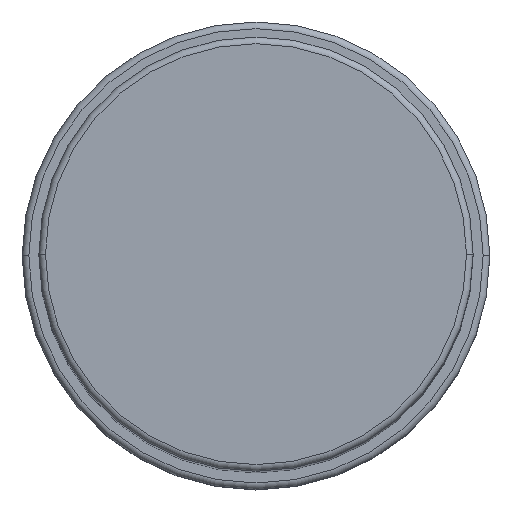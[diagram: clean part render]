
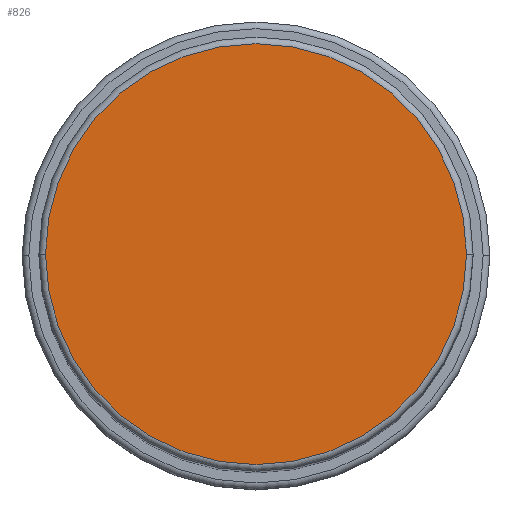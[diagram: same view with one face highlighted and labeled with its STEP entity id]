
A CAD part, top view. The second image highlights one B-rep face of the part: STEP entity #826.
In plain terms, the highlighted planar face has unit normal (0, 0, 1).
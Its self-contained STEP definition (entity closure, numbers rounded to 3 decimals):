
#13 = ORIENTED_EDGE ( 'NONE', *, *, #70, .T. ) ;
#70 = EDGE_CURVE ( 'NONE', #867, #507, #846, .T. ) ;
#264 = AXIS2_PLACEMENT_3D ( 'NONE', #427, #833, #704 ) ;
#305 = EDGE_LOOP ( 'NONE', ( #13, #945 ) ) ;
#374 = DIRECTION ( 'NONE',  ( 0., 0., 1. ) ) ;
#427 = CARTESIAN_POINT ( 'NONE',  ( 0., 0., 158. ) ) ;
#507 = VERTEX_POINT ( 'NONE', #1266 ) ;
#656 = CARTESIAN_POINT ( 'NONE',  ( 0., 0., 158. ) ) ;
#692 = DIRECTION ( 'NONE',  ( 0., 0., 1. ) ) ;
#704 = DIRECTION ( 'NONE',  ( 1., 0., 0. ) ) ;
#791 = AXIS2_PLACEMENT_3D ( 'NONE', #656, #374, #1076 ) ;
#826 = ADVANCED_FACE ( 'NONE', ( #1116 ), #1332, .T. ) ;
#833 = DIRECTION ( 'NONE',  ( 0., 0., 1. ) ) ;
#846 = CIRCLE ( 'NONE', #1345, 31.5 ) ;
#867 = VERTEX_POINT ( 'NONE', #1589 ) ;
#945 = ORIENTED_EDGE ( 'NONE', *, *, #1353, .T. ) ;
#1076 = DIRECTION ( 'NONE',  ( 1., 0., 0. ) ) ;
#1116 = FACE_OUTER_BOUND ( 'NONE', #305, .T. ) ;
#1226 = DIRECTION ( 'NONE',  ( 1., 0., 0. ) ) ;
#1266 = CARTESIAN_POINT ( 'NONE',  ( -31.5, 0., 158. ) ) ;
#1332 = PLANE ( 'NONE',  #791 ) ;
#1345 = AXIS2_PLACEMENT_3D ( 'NONE', #1746, #692, #1226 ) ;
#1353 = EDGE_CURVE ( 'NONE', #507, #867, #1652, .T. ) ;
#1589 = CARTESIAN_POINT ( 'NONE',  ( 31.5, 0., 158. ) ) ;
#1652 = CIRCLE ( 'NONE', #264, 31.5 ) ;
#1746 = CARTESIAN_POINT ( 'NONE',  ( 0., 0., 158. ) ) ;
